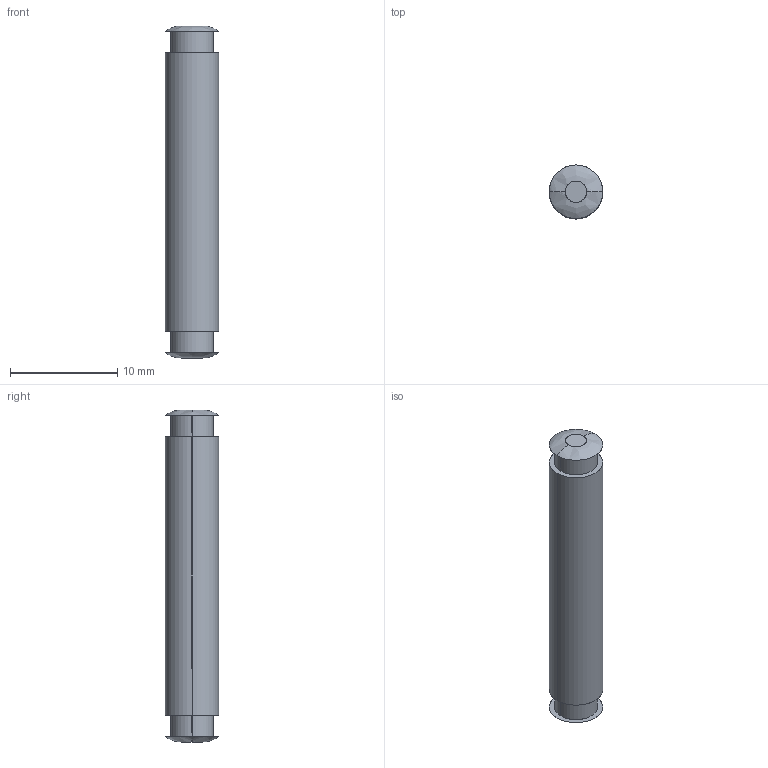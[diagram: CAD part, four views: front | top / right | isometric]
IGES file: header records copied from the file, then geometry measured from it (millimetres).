
Start section: SolidWorks IGES FILE using analytic representation for surfaces
Global section: file name: C:\Documents and Settings\lecoutey\Bureau\GP 1047\1047.100.00.IGS; native system: SolidWorks 2004 by SolidWorks Corporation; preprocessor: Version 5.3; author: lecoutey; date: 050329.154441; units: millimetre
Bounding box: 5 x 5 x 31 mm (x, y, z)
Surface area: 529.2 mm2 (no closed solid volume)
Topology: 0 solids, 0 shells, 16 faces, 360 edges, 360 vertices
Faces by surface type: bspline 10, revolution 6
